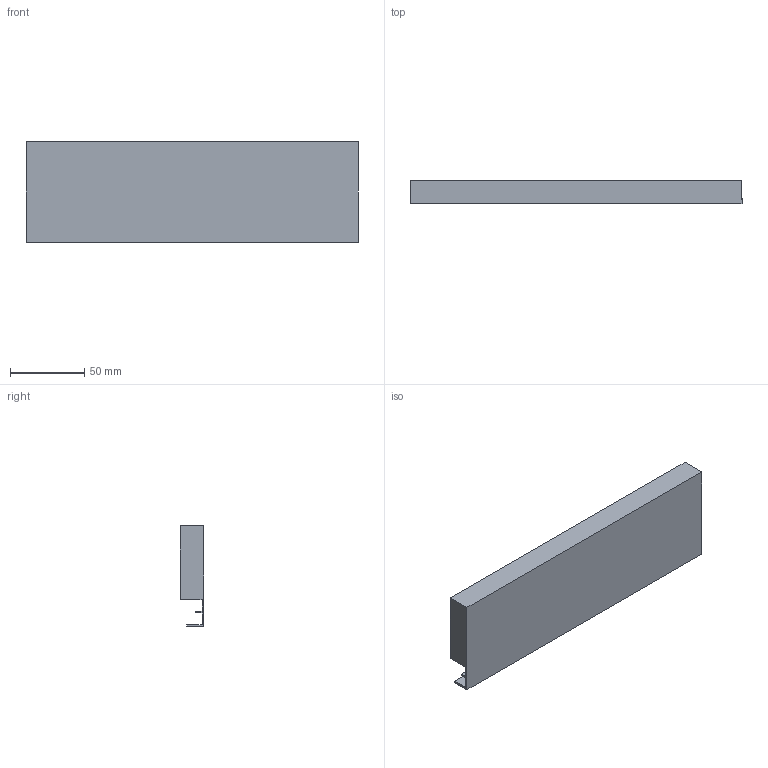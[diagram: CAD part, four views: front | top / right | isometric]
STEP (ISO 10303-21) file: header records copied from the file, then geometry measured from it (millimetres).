
FILE_DESCRIPTION (( 'STEP AP214' ), '1' );
FILE_NAME ('Innenschub-Blendenprofil_KAB350_S18.step', '2010-09-23T12:26:56', ( 'grass' ), ( '' ), 'SwSTEP 2.0', 'SolidWorks 2010', '' );
FILE_SCHEMA (( 'AUTOMOTIVE_DESIGN' ));
Length unit declared in the file: millimetre
Products named in the file (1): Innenschub-Blendenprofil_KAB350_S18
Bounding box: 223 x 15.9 x 67.6 mm (x, y, z)
Volume: 184870.8 mm3; surface area: 45445.6 mm2
Topology: 1 solids, 1 shells, 17 faces, 42 edges, 28 vertices
Faces by surface type: plane 15, cylinder 2
Entity records: 534 total; most frequent: CARTESIAN_POINT 88, ORIENTED_EDGE 84, DIRECTION 82, EDGE_CURVE 42, VECTOR 38, LINE 38, VERTEX_POINT 28, AXIS2_PLACEMENT_3D 22
